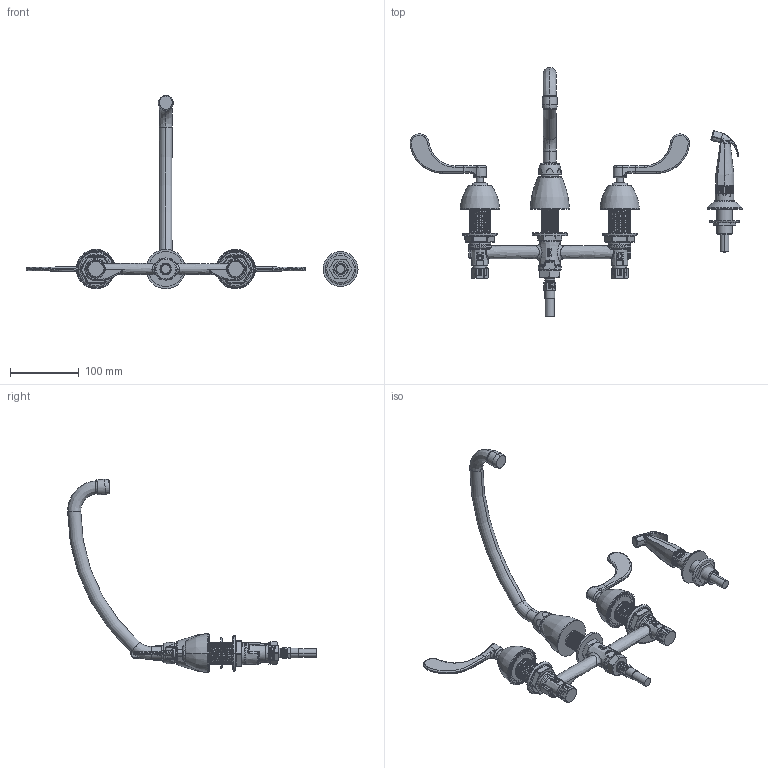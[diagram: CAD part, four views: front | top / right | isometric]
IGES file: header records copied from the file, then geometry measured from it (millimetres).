
Start section:  PTC IGES file: 200-AE35-317AB.igs
Global section: file name: 200-AE35-317AB.igs; native system: Creo Parametric by PTC Inc.; preprocessor: 2017260; author: usch_engrender; organization: Unknown; date: 20180601.123229; units: inch
Bounding box: 482.6 x 361.52 x 281.12 mm (x, y, z)
Surface area: 173449 mm2 (no closed solid volume)
Topology: 0 solids, 71 shells, 1224 faces, 3430 edges, 2234 vertices
Faces by surface type: revolution 720, bspline 499, extrusion 5
